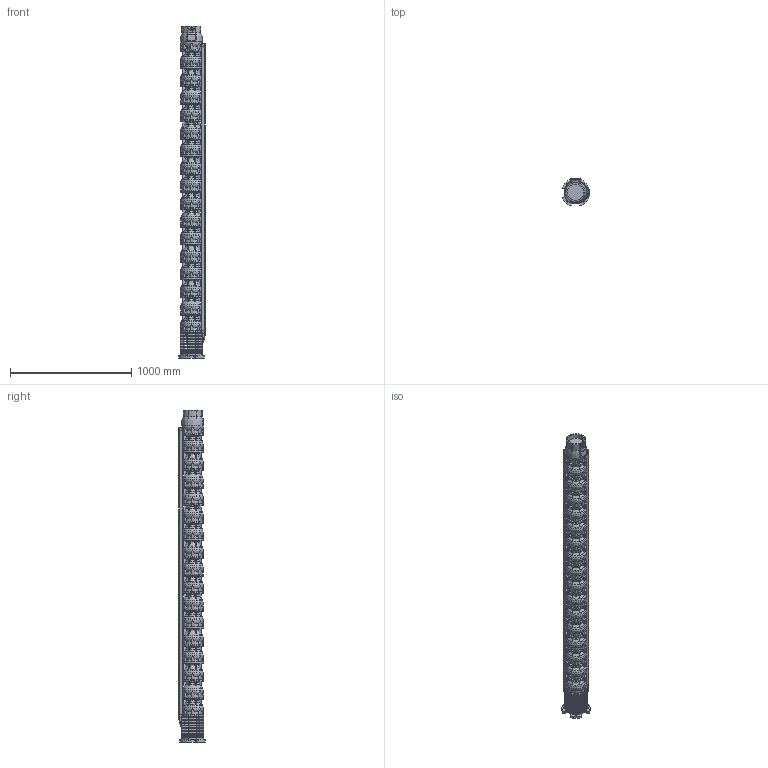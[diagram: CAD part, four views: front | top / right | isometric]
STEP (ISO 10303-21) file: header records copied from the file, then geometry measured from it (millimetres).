
FILE_DESCRIPTION(/* description */ ('Unknown'),/* implementation_level */ '2;1');
FILE_NAME(/* name */ 'VSI134-16_WR_M10-50_SME',/* time_stamp */ '2023-09-14T14:55:40+02:00',/* author */ ('Unknown'),/* organization */ ('Unknown'),/* preprocessor_version */ 'ST-DEVELOPER v18.102',/* originating_system */ 'Solid Edge',/* authorisation */ 'Unknown');
FILE_SCHEMA (('AUTOMOTIVE_DESIGN {1 0 10303 214 3 1 1}'));
Products named in the file (12): VSI134-16_WR_M10-50_SME; VSI134_testata; VSI134_diffusore; VSI134_supporto_8×8; VSI134_adattatore_8×10; VSI134_filtro_A; VSI134_filtro_B; VSI134_terminale_top_copricavo_medio; VSI134_terminale_bottom_copricavo_medio; MID 134-16; M5X8_UNI7687; VSI134_giunto_8×10
Assembly tree (40 placements, depth 2):
  VSI134-16_WR_M10-50_SME
    VSI134_testata
    VSI134_diffusore  x16
    VSI134_supporto_8×8
    VSI134_adattatore_8×10
    VSI134_filtro_A
    VSI134_filtro_B
    VSI134_terminale_top_copricavo_medio  x2
    VSI134_terminale_bottom_copricavo_medio  x2
    MID 134-16  x2
    M5X8_UNI7687  x12
    VSI134_giunto_8×10
Bounding box: 221.78 x 221.78 x 2738 mm (x, y, z)
Volume: 51334542.6 mm3; surface area: 4613337.7 mm2
Topology: 79 solids, 81 shells, 5267 faces, 14809 edges, 9890 vertices
Faces by surface type: plane 3723, torus 744, cylinder 682, cone 73, bspline 31, sphere 14
Full cylindrical faces by diameter (mm): 2.4 x2, 3 x2, 4.2 x16, 5 x12, 5.5 x8, 14 x4, 16 x4, 17.5 x4, 26 x1, 30 x4, 44 x1, 65 x1, 69 x1, 74 x1, 84 x1, 98 x1, 127 x2, 135.472 x1, 157 x1, 182 x17
Entity records: 85403 total; most frequent: CARTESIAN_POINT 18305, ORIENTED_EDGE 13946, DIRECTION 13474, EDGE_CURVE 6973, VERTEX_POINT 4707, AXIS2_PLACEMENT_3D 4615, LINE 4244, VECTOR 4244
